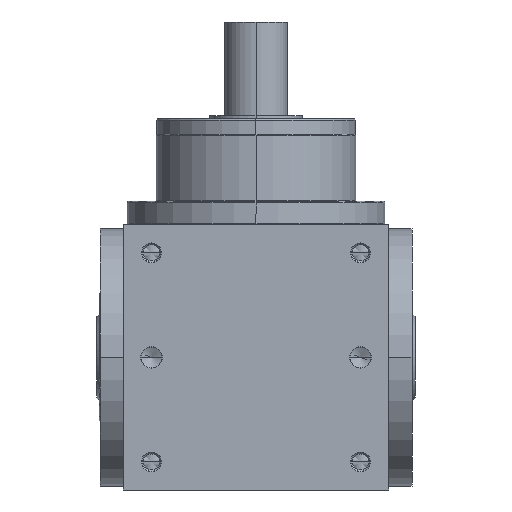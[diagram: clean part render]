
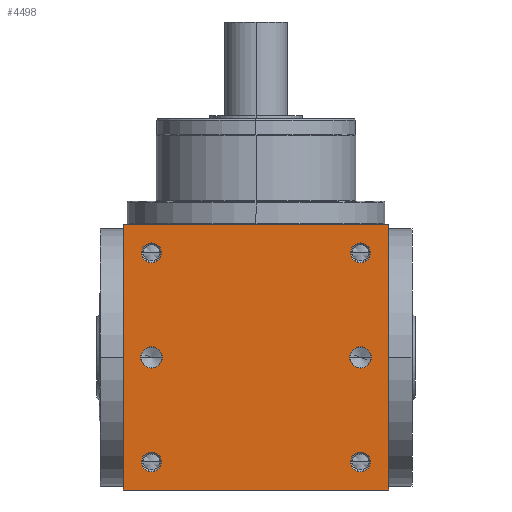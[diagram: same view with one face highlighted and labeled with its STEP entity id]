
A CAD part, front view. The second image highlights one B-rep face of the part: STEP entity #4498.
In plain terms, the highlighted planar face has unit normal (0, -1, 0).
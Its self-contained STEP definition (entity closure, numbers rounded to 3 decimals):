
#5=DIRECTION('',(1.,0.,0.));
#6=VECTOR('',#5,170.);
#7=CARTESIAN_POINT('',(-85.,-85.,-85.));
#8=LINE('',#7,#6);
#155=DIRECTION('',(0.,0.,1.));
#156=VECTOR('',#155,170.);
#157=CARTESIAN_POINT('',(85.,-85.,-85.));
#158=LINE('',#157,#156);
#209=DIRECTION('',(0.,0.,1.));
#210=VECTOR('',#209,170.);
#211=CARTESIAN_POINT('',(-85.,-85.,-85.));
#212=LINE('',#211,#210);
#213=CARTESIAN_POINT('',(67.,-85.,67.));
#214=DIRECTION('',(0.,1.,0.));
#215=DIRECTION('',(-1.,0.,0.));
#216=AXIS2_PLACEMENT_3D('',#213,#214,#215);
#218=CARTESIAN_POINT('',(67.,-85.,67.));
#219=DIRECTION('',(0.,1.,0.));
#220=DIRECTION('',(1.,0.,0.));
#221=AXIS2_PLACEMENT_3D('',#218,#219,#220);
#223=CARTESIAN_POINT('',(-67.,-85.,67.));
#224=DIRECTION('',(0.,1.,0.));
#225=DIRECTION('',(-1.,0.,0.));
#226=AXIS2_PLACEMENT_3D('',#223,#224,#225);
#228=CARTESIAN_POINT('',(-67.,-85.,67.));
#229=DIRECTION('',(0.,1.,0.));
#230=DIRECTION('',(1.,0.,0.));
#231=AXIS2_PLACEMENT_3D('',#228,#229,#230);
#233=CARTESIAN_POINT('',(67.,-85.,-67.));
#234=DIRECTION('',(0.,1.,0.));
#235=DIRECTION('',(-1.,0.,0.));
#236=AXIS2_PLACEMENT_3D('',#233,#234,#235);
#238=CARTESIAN_POINT('',(67.,-85.,-67.));
#239=DIRECTION('',(0.,1.,0.));
#240=DIRECTION('',(1.,0.,0.));
#241=AXIS2_PLACEMENT_3D('',#238,#239,#240);
#243=CARTESIAN_POINT('',(-67.,-85.,-67.));
#244=DIRECTION('',(0.,1.,0.));
#245=DIRECTION('',(-1.,0.,0.));
#246=AXIS2_PLACEMENT_3D('',#243,#244,#245);
#248=CARTESIAN_POINT('',(-67.,-85.,-67.));
#249=DIRECTION('',(0.,1.,0.));
#250=DIRECTION('',(1.,0.,0.));
#251=AXIS2_PLACEMENT_3D('',#248,#249,#250);
#253=CARTESIAN_POINT('',(-67.,-85.,0.));
#254=DIRECTION('',(0.,1.,0.));
#255=DIRECTION('',(1.,0.,0.));
#256=AXIS2_PLACEMENT_3D('',#253,#254,#255);
#258=CARTESIAN_POINT('',(-67.,-85.,0.));
#259=DIRECTION('',(0.,1.,0.));
#260=DIRECTION('',(-1.,0.,0.));
#261=AXIS2_PLACEMENT_3D('',#258,#259,#260);
#263=CARTESIAN_POINT('',(67.,-85.,0.));
#264=DIRECTION('',(0.,1.,0.));
#265=DIRECTION('',(1.,0.,0.));
#266=AXIS2_PLACEMENT_3D('',#263,#264,#265);
#268=CARTESIAN_POINT('',(67.,-85.,0.));
#269=DIRECTION('',(0.,1.,0.));
#270=DIRECTION('',(-1.,0.,0.));
#271=AXIS2_PLACEMENT_3D('',#268,#269,#270);
#285=DIRECTION('',(1.,0.,0.));
#286=VECTOR('',#285,170.);
#287=CARTESIAN_POINT('',(-85.,-85.,85.));
#288=LINE('',#287,#286);
#3624=CARTESIAN_POINT('',(-85.,-85.,-85.));
#3626=VERTEX_POINT('',#3624);
#3627=CARTESIAN_POINT('',(85.,-85.,-85.));
#3628=VERTEX_POINT('',#3627);
#3632=CARTESIAN_POINT('',(-85.,-85.,85.));
#3634=VERTEX_POINT('',#3632);
#3635=CARTESIAN_POINT('',(85.,-85.,85.));
#3636=VERTEX_POINT('',#3635);
#3791=CARTESIAN_POINT('',(60.65,-85.,67.));
#3792=CARTESIAN_POINT('',(73.35,-85.,67.));
#3793=VERTEX_POINT('',#3791);
#3794=VERTEX_POINT('',#3792);
#3799=CARTESIAN_POINT('',(-73.35,-85.,67.));
#3800=CARTESIAN_POINT('',(-60.65,-85.,67.));
#3801=VERTEX_POINT('',#3799);
#3802=VERTEX_POINT('',#3800);
#3807=CARTESIAN_POINT('',(60.65,-85.,-67.));
#3808=CARTESIAN_POINT('',(73.35,-85.,-67.));
#3809=VERTEX_POINT('',#3807);
#3810=VERTEX_POINT('',#3808);
#3815=CARTESIAN_POINT('',(-73.35,-85.,-67.));
#3816=CARTESIAN_POINT('',(-60.65,-85.,-67.));
#3817=VERTEX_POINT('',#3815);
#3818=VERTEX_POINT('',#3816);
#4139=CARTESIAN_POINT('',(-60.15,-85.,0.));
#4140=CARTESIAN_POINT('',(-73.85,-85.,
0.));
#4141=VERTEX_POINT('',#4139);
#4142=VERTEX_POINT('',#4140);
#4147=CARTESIAN_POINT('',(73.85,-85.,0.));
#4148=CARTESIAN_POINT('',(60.15,-85.,0.));
#4149=VERTEX_POINT('',#4147);
#4150=VERTEX_POINT('',#4148);
#4450=CARTESIAN_POINT('',(-85.,-85.,-85.));
#4451=DIRECTION('',(0.,-1.,0.));
#4452=DIRECTION('',(1.,0.,0.));
#4453=AXIS2_PLACEMENT_3D('',#4450,#4451,#4452);
#4454=PLANE('',#4453);
#4455=ORIENTED_EDGE('',*,*,#4290,.F.);
#4456=ORIENTED_EDGE('',*,*,#4333,.T.);
#4458=ORIENTED_EDGE('',*,*,#4457,.T.);
#4459=ORIENTED_EDGE('',*,*,#4412,.F.);
#4460=EDGE_LOOP('',(#4455,#4456,#4458,#4459));
#4461=FACE_OUTER_BOUND('',#4460,.F.);
#4463=ORIENTED_EDGE('',*,*,#4462,.F.);
#4465=ORIENTED_EDGE('',*,*,#4464,.F.);
#4466=EDGE_LOOP('',(#4463,#4465));
#4467=FACE_BOUND('',#4466,.F.);
#4469=ORIENTED_EDGE('',*,*,#4468,.F.);
#4471=ORIENTED_EDGE('',*,*,#4470,.F.);
#4472=EDGE_LOOP('',(#4469,#4471));
#4473=FACE_BOUND('',#4472,.F.);
#4475=ORIENTED_EDGE('',*,*,#4474,.F.);
#4477=ORIENTED_EDGE('',*,*,#4476,.F.);
#4478=EDGE_LOOP('',(#4475,#4477));
#4479=FACE_BOUND('',#4478,.F.);
#4481=ORIENTED_EDGE('',*,*,#4480,.F.);
#4483=ORIENTED_EDGE('',*,*,#4482,.F.);
#4484=EDGE_LOOP('',(#4481,#4483));
#4485=FACE_BOUND('',#4484,.F.);
#4487=ORIENTED_EDGE('',*,*,#4486,.F.);
#4489=ORIENTED_EDGE('',*,*,#4488,.F.);
#4490=EDGE_LOOP('',(#4487,#4489));
#4491=FACE_BOUND('',#4490,.F.);
#4493=ORIENTED_EDGE('',*,*,#4492,.F.);
#4495=ORIENTED_EDGE('',*,*,#4494,.F.);
#4496=EDGE_LOOP('',(#4493,#4495));
#4497=FACE_BOUND('',#4496,.F.);
#4498=ADVANCED_FACE('',(#4461,#4467,#4473,#4479,#4485,#4491,#4497),#4454,.T.);
#217=CIRCLE('',#216,6.35);
#222=CIRCLE('',#221,6.35);
#227=CIRCLE('',#226,6.35);
#232=CIRCLE('',#231,6.35);
#237=CIRCLE('',#236,6.35);
#242=CIRCLE('',#241,6.35);
#247=CIRCLE('',#246,6.35);
#252=CIRCLE('',#251,6.35);
#257=CIRCLE('',#256,6.85);
#262=CIRCLE('',#261,6.85);
#267=CIRCLE('',#266,6.85);
#272=CIRCLE('',#271,6.85);
#4290=EDGE_CURVE('',#3626,#3628,#8,.T.);
#4333=EDGE_CURVE('',#3626,#3634,#212,.T.);
#4412=EDGE_CURVE('',#3628,#3636,#158,.T.);
#4457=EDGE_CURVE('',#3634,#3636,#288,.T.);
#4462=EDGE_CURVE('',#3793,#3794,#217,.T.);
#4464=EDGE_CURVE('',#3794,#3793,#222,.T.);
#4468=EDGE_CURVE('',#3801,#3802,#227,.T.);
#4470=EDGE_CURVE('',#3802,#3801,#232,.T.);
#4474=EDGE_CURVE('',#3809,#3810,#237,.T.);
#4476=EDGE_CURVE('',#3810,#3809,#242,.T.);
#4480=EDGE_CURVE('',#3817,#3818,#247,.T.);
#4482=EDGE_CURVE('',#3818,#3817,#252,.T.);
#4486=EDGE_CURVE('',#4141,#4142,#257,.T.);
#4488=EDGE_CURVE('',#4142,#4141,#262,.T.);
#4492=EDGE_CURVE('',#4149,#4150,#267,.T.);
#4494=EDGE_CURVE('',#4150,#4149,#272,.T.);
